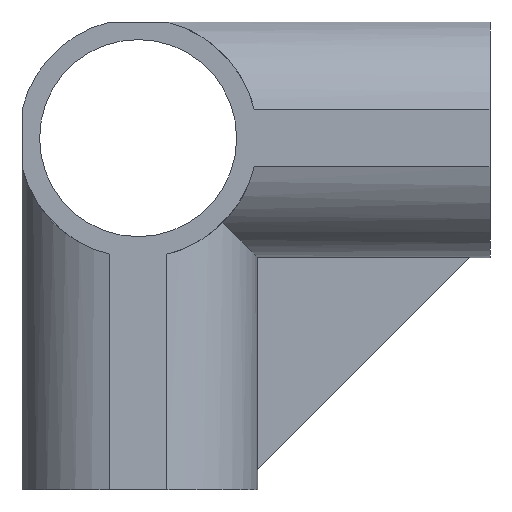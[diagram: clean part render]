
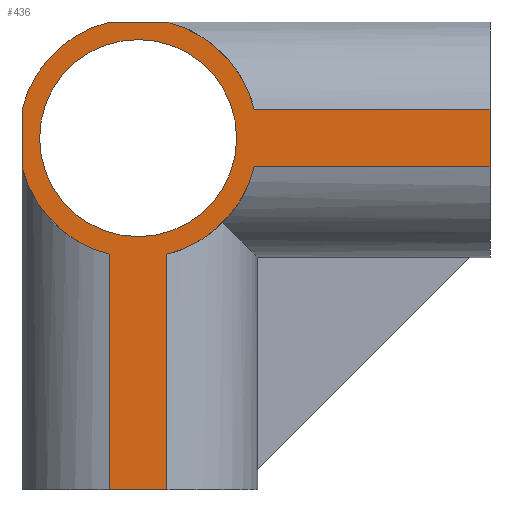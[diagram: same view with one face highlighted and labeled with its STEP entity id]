
A CAD part, front view. The second image highlights one B-rep face of the part: STEP entity #436.
In plain terms, the highlighted planar face has unit normal (0, -1, 0).
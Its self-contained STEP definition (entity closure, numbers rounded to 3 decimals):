
#7 = VERTEX_POINT ( 'NONE', #846 ) ;
#13 = VERTEX_POINT ( 'NONE', #297 ) ;
#15 = EDGE_CURVE ( 'NONE', #939, #81, #968, .T. ) ;
#16 = DIRECTION ( 'NONE',  ( 0., 0., 1. ) ) ;
#23 = CARTESIAN_POINT ( 'NONE',  ( 0., -16.5, 0. ) ) ;
#24 = DIRECTION ( 'NONE',  ( 0., 0., 1. ) ) ;
#30 = CARTESIAN_POINT ( 'NONE',  ( -4.093, -16.5, -16.5 ) ) ;
#41 = ORIENTED_EDGE ( 'NONE', *, *, #830, .T. ) ;
#42 = AXIS2_PLACEMENT_3D ( 'NONE', #69, #699, #523 ) ;
#43 = AXIS2_PLACEMENT_3D ( 'NONE', #288, #596, #755 ) ;
#44 = CIRCLE ( 'NONE', #430, 14. ) ;
#56 = CARTESIAN_POINT ( 'NONE',  ( 16.5, -16.5, 4.093 ) ) ;
#57 = CIRCLE ( 'NONE', #477, 17. ) ;
#60 = VERTEX_POINT ( 'NONE', #950 ) ;
#69 = CARTESIAN_POINT ( 'NONE',  ( 0., -16.5, 0. ) ) ;
#70 = VERTEX_POINT ( 'NONE', #402 ) ;
#81 = VERTEX_POINT ( 'NONE', #956 ) ;
#84 = CARTESIAN_POINT ( 'NONE',  ( 0., -16.5, 0. ) ) ;
#101 = DIRECTION ( 'NONE',  ( 1., 0., 0. ) ) ;
#103 = DIRECTION ( 'NONE',  ( 0., -1., 0. ) ) ;
#104 = VERTEX_POINT ( 'NONE', #561 ) ;
#112 = CARTESIAN_POINT ( 'NONE',  ( -17.001, -16.5, -4.093 ) ) ;
#115 = ORIENTED_EDGE ( 'NONE', *, *, #987, .F. ) ;
#119 = EDGE_CURVE ( 'NONE', #60, #851, #601, .T. ) ;
#123 = AXIS2_PLACEMENT_3D ( 'NONE', #84, #713, #316 ) ;
#142 = CIRCLE ( 'NONE', #157, 17. ) ;
#148 = CARTESIAN_POINT ( 'NONE',  ( 4.093, -16.5, 17.001 ) ) ;
#157 = AXIS2_PLACEMENT_3D ( 'NONE', #185, #973, #24 ) ;
#185 = CARTESIAN_POINT ( 'NONE',  ( 0., -16.5, 0. ) ) ;
#197 = ORIENTED_EDGE ( 'NONE', *, *, #15, .F. ) ;
#208 = CARTESIAN_POINT ( 'NONE',  ( 0., -16.5, -14. ) ) ;
#216 = EDGE_CURVE ( 'NONE', #104, #321, #516, .T. ) ;
#217 = LINE ( 'NONE', #763, #394 ) ;
#233 = DIRECTION ( 'NONE',  ( 0., 0., 1. ) ) ;
#236 = EDGE_CURVE ( 'NONE', #104, #13, #142, .T. ) ;
#238 = LINE ( 'NONE', #871, #604 ) ;
#241 = VERTEX_POINT ( 'NONE', #965 ) ;
#259 = CARTESIAN_POINT ( 'NONE',  ( 0., -16.5, 0. ) ) ;
#267 = CARTESIAN_POINT ( 'NONE',  ( 0., -16.5, -50. ) ) ;
#281 = VECTOR ( 'NONE', #16, 1000. ) ;
#284 = EDGE_CURVE ( 'NONE', #506, #70, #656, .T. ) ;
#285 = CARTESIAN_POINT ( 'NONE',  ( 50., -16.5, -4.093 ) ) ;
#288 = CARTESIAN_POINT ( 'NONE',  ( 0., -16.5, 0. ) ) ;
#289 = DIRECTION ( 'NONE',  ( -1., 0., 0. ) ) ;
#297 = CARTESIAN_POINT ( 'NONE',  ( 4.093, -16.5, -16.5 ) ) ;
#316 = DIRECTION ( 'NONE',  ( 0., 0., -1. ) ) ;
#321 = VERTEX_POINT ( 'NONE', #285 ) ;
#335 = CARTESIAN_POINT ( 'NONE',  ( 50., -16.5, 4.093 ) ) ;
#363 = VECTOR ( 'NONE', #289, 1000. ) ;
#377 = ORIENTED_EDGE ( 'NONE', *, *, #759, .T. ) ;
#380 = FACE_OUTER_BOUND ( 'NONE', #571, .T. ) ;
#394 = VECTOR ( 'NONE', #1006, 1000. ) ;
#402 = CARTESIAN_POINT ( 'NONE',  ( 4.093, -16.5, -50. ) ) ;
#403 = EDGE_CURVE ( 'NONE', #321, #546, #217, .T. ) ;
#415 = ORIENTED_EDGE ( 'NONE', *, *, #509, .T. ) ;
#430 = AXIS2_PLACEMENT_3D ( 'NONE', #259, #103, #739 ) ;
#431 = ORIENTED_EDGE ( 'NONE', *, *, #905, .F. ) ;
#436 = ADVANCED_FACE ( 'NONE', ( #676, #380 ), #688, .F. ) ;
#450 = CARTESIAN_POINT ( 'NONE',  ( -4.093, -16.5, 17.001 ) ) ;
#461 = DIRECTION ( 'NONE',  ( 0., 0., -1. ) ) ;
#467 = LINE ( 'NONE', #148, #281 ) ;
#471 = DIRECTION ( 'NONE',  ( 1., 0., 0. ) ) ;
#477 = AXIS2_PLACEMENT_3D ( 'NONE', #629, #639, #703 ) ;
#489 = ORIENTED_EDGE ( 'NONE', *, *, #119, .F. ) ;
#506 = VERTEX_POINT ( 'NONE', #633 ) ;
#509 = EDGE_CURVE ( 'NONE', #70, #13, #467, .T. ) ;
#512 = VECTOR ( 'NONE', #233, 1000. ) ;
#513 = ORIENTED_EDGE ( 'NONE', *, *, #612, .F. ) ;
#516 = LINE ( 'NONE', #112, #833 ) ;
#523 = DIRECTION ( 'NONE',  ( 0., 0., 1. ) ) ;
#537 = EDGE_CURVE ( 'NONE', #241, #807, #57, .T. ) ;
#538 = ORIENTED_EDGE ( 'NONE', *, *, #537, .F. ) ;
#539 = VECTOR ( 'NONE', #741, 1000. ) ;
#541 = VECTOR ( 'NONE', #461, 1000. ) ;
#546 = VERTEX_POINT ( 'NONE', #335 ) ;
#561 = CARTESIAN_POINT ( 'NONE',  ( 16.5, -16.5, -4.093 ) ) ;
#566 = ORIENTED_EDGE ( 'NONE', *, *, #284, .T. ) ;
#571 = EDGE_LOOP ( 'NONE', ( #538, #907, #197, #431, #513, #377, #566, #415, #995, #977, #847, #41 ) ) ;
#592 = LINE ( 'NONE', #450, #541 ) ;
#596 = DIRECTION ( 'NONE',  ( 0., 1., 0. ) ) ;
#601 = CIRCLE ( 'NONE', #123, 14. ) ;
#604 = VECTOR ( 'NONE', #471, 1000. ) ;
#612 = EDGE_CURVE ( 'NONE', #652, #7, #852, .T. ) ;
#628 = CARTESIAN_POINT ( 'NONE',  ( -16.5, -16.5, 4.1 ) ) ;
#629 = CARTESIAN_POINT ( 'NONE',  ( 0., -16.5, 0. ) ) ;
#633 = CARTESIAN_POINT ( 'NONE',  ( -4.093, -16.5, -50. ) ) ;
#639 = DIRECTION ( 'NONE',  ( 0., 1., 0. ) ) ;
#652 = VERTEX_POINT ( 'NONE', #30 ) ;
#654 = DIRECTION ( 'NONE',  ( 0., 1., 0. ) ) ;
#656 = LINE ( 'NONE', #267, #539 ) ;
#676 = FACE_BOUND ( 'NONE', #967, .T. ) ;
#688 = PLANE ( 'NONE',  #43 ) ;
#699 = DIRECTION ( 'NONE',  ( 0., 1., 0. ) ) ;
#703 = DIRECTION ( 'NONE',  ( 0., 0., 1. ) ) ;
#713 = DIRECTION ( 'NONE',  ( 0., -1., 0. ) ) ;
#739 = DIRECTION ( 'NONE',  ( 0., 0., -1. ) ) ;
#741 = DIRECTION ( 'NONE',  ( 1., 0., 0. ) ) ;
#755 = DIRECTION ( 'NONE',  ( 0., 0., 1. ) ) ;
#759 = EDGE_CURVE ( 'NONE', #652, #506, #592, .T. ) ;
#763 = CARTESIAN_POINT ( 'NONE',  ( 50., -16.5, 4.1 ) ) ;
#773 = LINE ( 'NONE', #628, #512 ) ;
#796 = CARTESIAN_POINT ( 'NONE',  ( -16.5, -16.5, 4.093 ) ) ;
#807 = VERTEX_POINT ( 'NONE', #56 ) ;
#830 = EDGE_CURVE ( 'NONE', #546, #807, #1009, .T. ) ;
#833 = VECTOR ( 'NONE', #101, 1000. ) ;
#846 = CARTESIAN_POINT ( 'NONE',  ( -16.5, -16.5, -4.093 ) ) ;
#847 = ORIENTED_EDGE ( 'NONE', *, *, #403, .T. ) ;
#851 = VERTEX_POINT ( 'NONE', #208 ) ;
#852 = CIRCLE ( 'NONE', #916, 17. ) ;
#871 = CARTESIAN_POINT ( 'NONE',  ( -4.1, -16.5, 16.5 ) ) ;
#886 = EDGE_CURVE ( 'NONE', #81, #241, #238, .T. ) ;
#896 = DIRECTION ( 'NONE',  ( 0., 0., 1. ) ) ;
#905 = EDGE_CURVE ( 'NONE', #7, #939, #773, .T. ) ;
#907 = ORIENTED_EDGE ( 'NONE', *, *, #886, .F. ) ;
#908 = CARTESIAN_POINT ( 'NONE',  ( -17.001, -16.5, 4.093 ) ) ;
#916 = AXIS2_PLACEMENT_3D ( 'NONE', #23, #654, #896 ) ;
#939 = VERTEX_POINT ( 'NONE', #796 ) ;
#950 = CARTESIAN_POINT ( 'NONE',  ( 0., -16.5, 14. ) ) ;
#956 = CARTESIAN_POINT ( 'NONE',  ( -4.093, -16.5, 16.5 ) ) ;
#965 = CARTESIAN_POINT ( 'NONE',  ( 4.093, -16.5, 16.5 ) ) ;
#967 = EDGE_LOOP ( 'NONE', ( #115, #489 ) ) ;
#968 = CIRCLE ( 'NONE', #42, 17. ) ;
#973 = DIRECTION ( 'NONE',  ( 0., 1., 0. ) ) ;
#977 = ORIENTED_EDGE ( 'NONE', *, *, #216, .T. ) ;
#987 = EDGE_CURVE ( 'NONE', #851, #60, #44, .T. ) ;
#995 = ORIENTED_EDGE ( 'NONE', *, *, #236, .F. ) ;
#1006 = DIRECTION ( 'NONE',  ( 0., 0., 1. ) ) ;
#1009 = LINE ( 'NONE', #908, #363 ) ;
